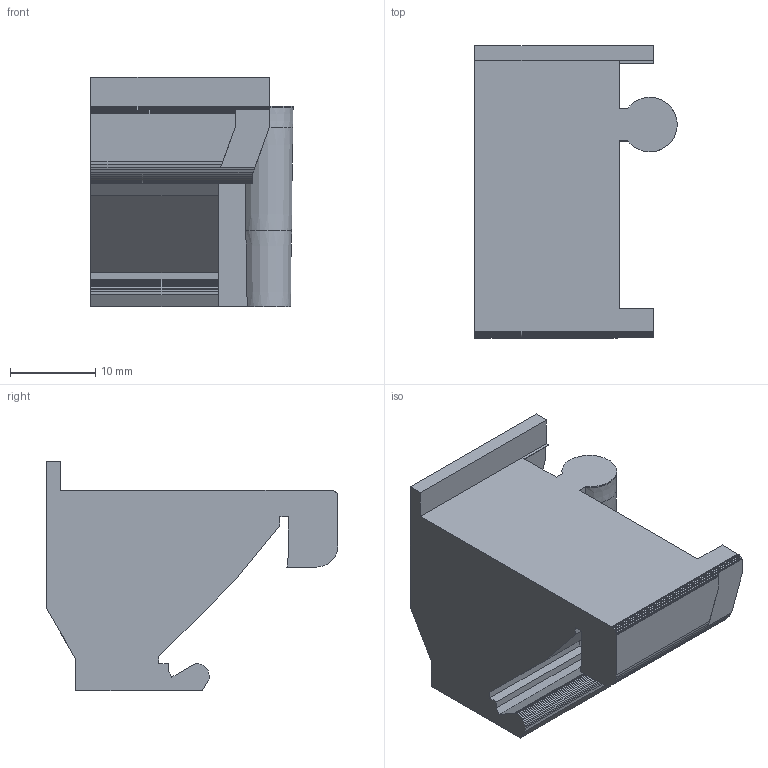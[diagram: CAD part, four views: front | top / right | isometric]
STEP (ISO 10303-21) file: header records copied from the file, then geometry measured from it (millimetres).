
FILE_DESCRIPTION(('Open CASCADE Model'),'2;1');
FILE_NAME('Open CASCADE Shape Model','2026-10-27T10:19:42',('Author'),( 'Open CASCADE'),'Open CASCADE STEP processor 8.0','build123d', 'Unknown');
FILE_SCHEMA(('AUTOMOTIVE_DESIGN { 1 0 10303 214 1 1 1 1 }'));
Length unit declared in the file: millimetre
Products named in the file (1): SOLID
Bounding box: 23.69 x 34.2 x 26.9 mm (x, y, z)
Volume: 9436.1 mm3; surface area: 3889.7 mm2
Topology: 1 solids, 1 shells, 100 faces, 296 edges, 198 vertices
Faces by surface type: plane 95, cone 3, bspline 1, cylinder 1
Entity records: 7000 total; most frequent: CARTESIAN_POINT 1955, DIRECTION 641, ORIENTED_EDGE 592, PCURVE 592, DEFINITIONAL_REPRESENTATION 592, B_SPLINE_CURVE_WITH_KNOTS 452, LINE 429, VECTOR 429
